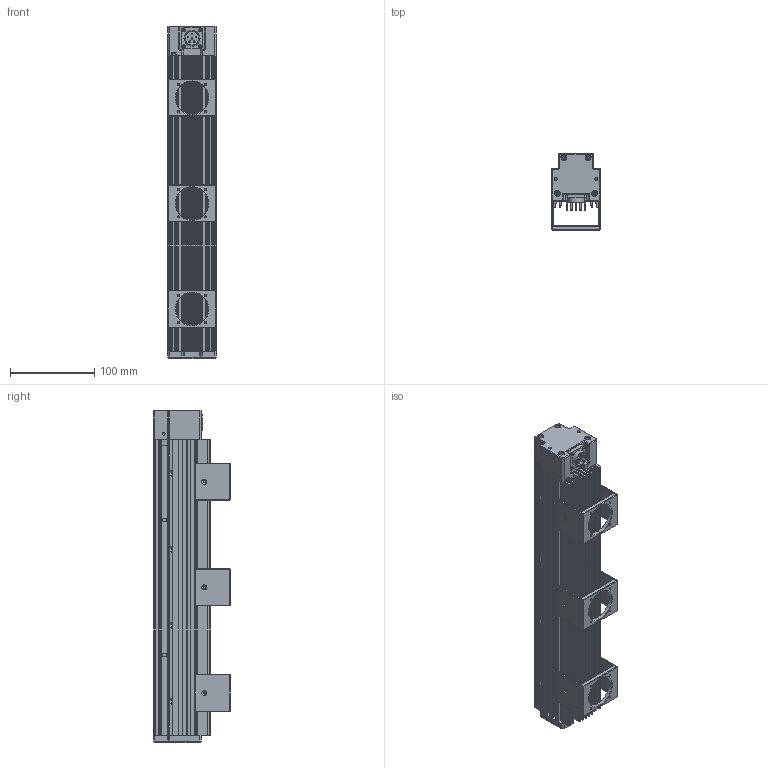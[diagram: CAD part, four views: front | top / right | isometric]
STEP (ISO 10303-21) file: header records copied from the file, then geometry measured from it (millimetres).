
FILE_DESCRIPTION((''),'2;1');
FILE_NAME('P-LSG-100-002','2021-10-12T18:26:34',('rs-zhongwm'),(''),'CREO PARAMETRIC BY PTC INC, 2019010','CREO PARAMETRIC BY PTC INC, 2019010','');
FILE_SCHEMA(('CONFIG_CONTROL_DESIGN'));
Length unit declared in the file: millimetre
Products named in the file (1): P-LSG-100-002
Bounding box: 58 x 90.1 x 393 mm (x, y, z)
Volume: 543493.1 mm3; surface area: 448131.1 mm2
Topology: 1 solids, 10 shells, 1015 faces, 2724 edges, 1701 vertices
Faces by surface type: plane 501, cylinder 360, cone 154
Entity records: 31415 total; most frequent: CARTESIAN_POINT 5587, DIRECTION 5440, ORIENTED_EDGE 5308, EDGE_CURVE 2654, VECTOR 1816, LINE 1816, AXIS2_PLACEMENT_3D 1812, VERTEX_POINT 1698
